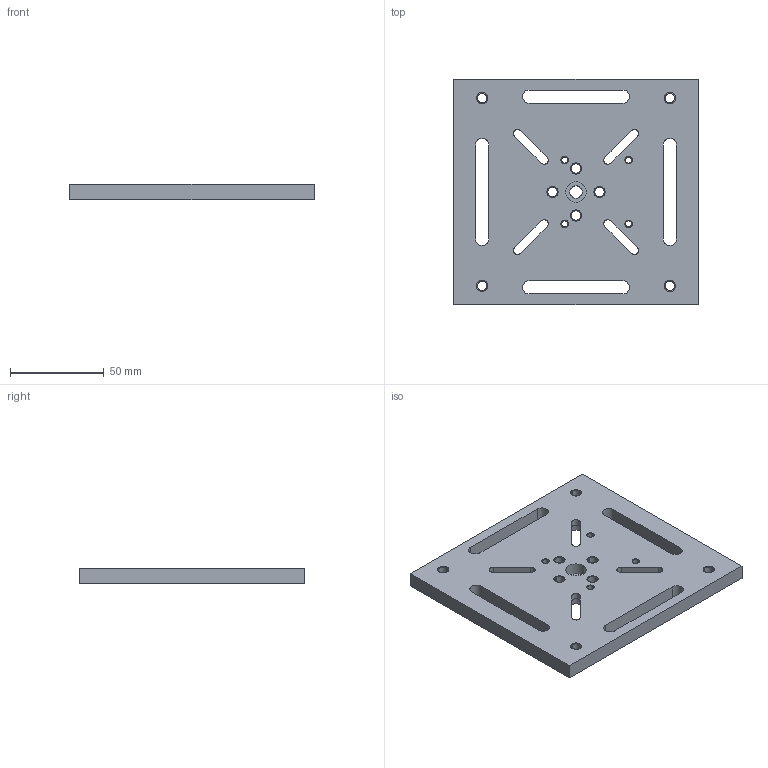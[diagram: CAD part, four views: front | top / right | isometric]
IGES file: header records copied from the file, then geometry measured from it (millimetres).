
Start section:  PTC IGES file: EUA01.igs
Global section: file name: EUA01.igs; native system: Pro/ENGINEER by Parametric Technology Corporation; preprocessor: 2006460; author: user; organization: Unknown; date: 20130717.171549; units: millimetre
Bounding box: 130 x 120 x 8.47 mm (x, y, z)
Surface area: 40209.6 mm2 (no closed solid volume)
Topology: 0 solids, 0 shells, 135 faces, 1080 edges, 1296 vertices
Faces by surface type: revolution 100, bspline 35
